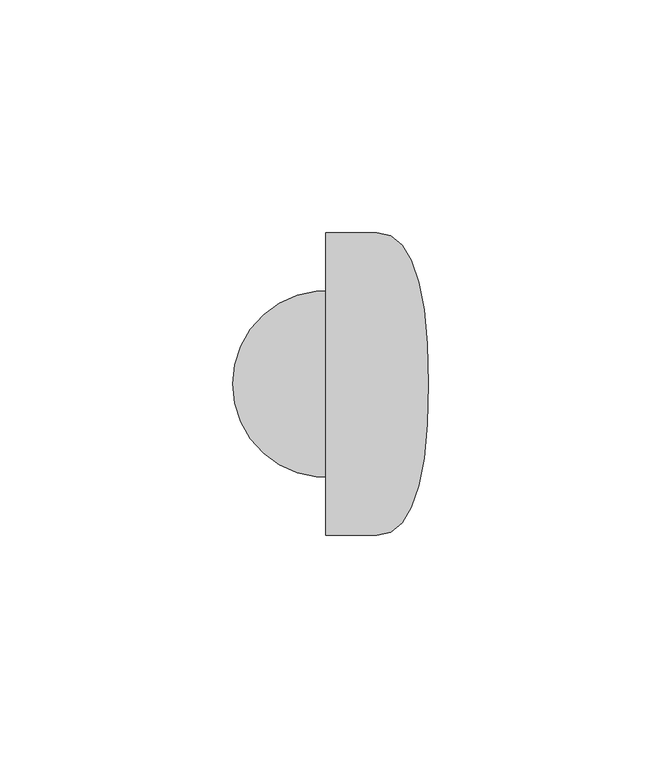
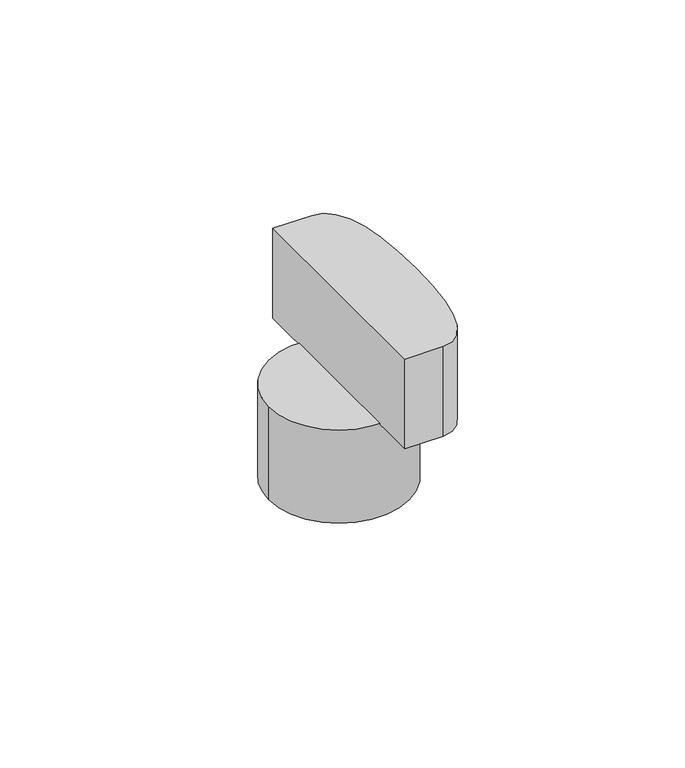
"""IFC4 building model written with IfcOpenShell, lengths in millimetres: sanitary terminal geometry, Z_DO_NOT_USE_NLRS_PF_52_UN_Slim Tube outgoing facing down_Easydrain : Slim Tube outgoing facing down."""

from ifc_helpers import new_model, si_unit, point, frame, frame_2d, origin, place, context, project, spatial, circle_curve, trimmed, segment, composite_curve, outline, extrude, source, transform, mapped, element, save
from ifc_brep_helpers import plane_surface, extruded_surface, spline_curve, advanced_brep


def sanitary_terminal_8a521ea7(model_context):
    return source(origin(), model_context, "Body", "SolidModel", [
        extrude(outline(composite_curve([segment(trimmed(circle_curve(frame_2d((-11.0, 0.0)), 20.0), [point((-31.0, 0.0))], [point((9.0, 0.0))], False, "CARTESIAN"), True, "CONTINUOUS"), segment(trimmed(circle_curve(frame_2d((-11.0, 0.0)), 20.0), [point((9.0, 0.0))], [point((-31.0, 0.0))], False, "CARTESIAN"), True, "CONTINUOUS")], self_intersect=False)), frame((0.0, 0.0, -3288.0), z_axis=(0.0, 0.0, 1.0), x_axis=(1.0, 0.0, 0.0)), (0.0, 0.0, 1.0), 28.0),
        advanced_brep(
        [(0.0, 32.5, -3233.0), (-11.0, 32.5, -3233.0), (-11.0, -32.5, -3233.0), (0.0, -32.5, -3233.0), (11.0, 0.0, -3233.0), (0.0, 32.5, -3260.0), (11.0, 0.0, -3260.0), (0.0, -32.5, -3260.0), (-11.0, -32.5, -3260.0), (-11.0, 32.5, -3260.0)],
        [
            (0, 1),
            (1, 2),
            (2, 3),
            (3, 4, spline_curve(3, [(0.0, -32.5, -3233.0), (7.333333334, -32.5, -3233.0), (11.0, -21.666666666, -3233.0), (11.0, 0.0, -3233.0)], [4, 4], [0.0, 0.07135826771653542])),
            (4, 0, spline_curve(3, [(11.0, 0.0, -3233.0), (11.0, 21.666666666, -3233.0), (7.333333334, 32.5, -3233.0), (0.0, 32.5, -3233.0)], [4, 4], [0.0, 0.07135826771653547])),
            (5, 6, spline_curve(3, [(0.0, 32.5, -3260.0), (7.333333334, 32.5, -3260.0), (11.0, 21.666666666, -3260.0), (11.0, 0.0, -3260.0)], [4, 4], [0.0, 0.07135826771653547])),
            (6, 7, spline_curve(3, [(11.0, 0.0, -3260.0), (11.0, -21.666666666, -3260.0), (7.333333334, -32.5, -3260.0), (0.0, -32.5, -3260.0)], [4, 4], [0.0, 0.07135826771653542])),
            (7, 8),
            (8, 9),
            (9, 5),
            (4, 6),
            (5, 0),
            (3, 7),
            (2, 8),
            (1, 9),
        ],
        [
            plane_surface(frame((0.0, 0.0, -3233.0), z_axis=(0.0, 0.0, 1.0), x_axis=(0.0, -1.0, 0.0))),
            plane_surface(frame((0.0, 0.0, -3260.0), z_axis=(0.0, 0.0, -1.0), x_axis=(0.0, -1.0, 0.0))),
            extruded_surface(spline_curve(3, [(11.0, 0.0, -3260.0), (11.0, 21.666666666, -3260.0), (7.333333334, 32.5, -3260.0), (0.0, 32.5, -3260.0)], [4, 4], [0.0, 0.07135826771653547]), (0.0, 0.0, 27.0), 27.0),
            extruded_surface(spline_curve(3, [(0.0, -32.5, -3260.0), (7.333333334, -32.5, -3260.0), (11.0, -21.666666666, -3260.0), (11.0, 0.0, -3260.0)], [4, 4], [0.0, 0.07135826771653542]), (0.0, 0.0, 27.0), 27.0),
            plane_surface(frame((-11.0, -32.5, -3233.0), z_axis=(0.0, -1.0, 0.0), x_axis=(0.0, 0.0, -1.0))),
            plane_surface(frame((-11.0, 32.5, -3233.0), z_axis=(-1.0, 0.0, 0.0), x_axis=(0.0, 0.0, -1.0))),
            plane_surface(frame((0.0, 32.5, -3233.0), z_axis=(0.0, 1.0, 0.0), x_axis=(0.0, 0.0, -1.0))),
        ],
        [
            (0, [[1, 2, 3, 4, 5]]),
            (1, [[6, 7, 8, 9, 10]]),
            (2, [[-5, 11, -6, 12]]),
            (3, [[-4, 13, -7, -11]]),
            (4, [[-3, 14, -8, -13]]),
            (5, [[-2, 15, -9, -14]]),
            (6, [[-1, -12, -10, -15]]),
        ],
    ),
    ])


if __name__ == "__main__":
    model = new_model("IFC4")
    model_context = context("Model", 3, world=origin())
    ifc_project = project(units=[si_unit("LENGTHUNIT", "METRE", prefix="MILLI")], contexts=[model_context])
    site = spatial("IfcSite", under=ifc_project)
    building = spatial("IfcBuilding", under=site)
    placement = place(None, origin())
    sanitary_terminal_shape = sanitary_terminal_8a521ea7(model_context)
    element("IfcSanitaryTerminal", 1, ObjectType="Z_DO_NOT_USE_NLRS_PF_52_UN_Slim Tube outgoing facing down_Easydrain : Slim Tube outgoing facing down", at=placement, inside=building, context=model_context, shape_type="MappedRepresentation", body=[
        mapped(sanitary_terminal_shape, transform((0.0, 0.0, 0.0), x_axis=(1.0, 0.0, 0.0), y_axis=(0.0, 1.0, 0.0), z_axis=(0.0, 0.0, 1.0))),
    ])
    save(model, "model.ifc")
